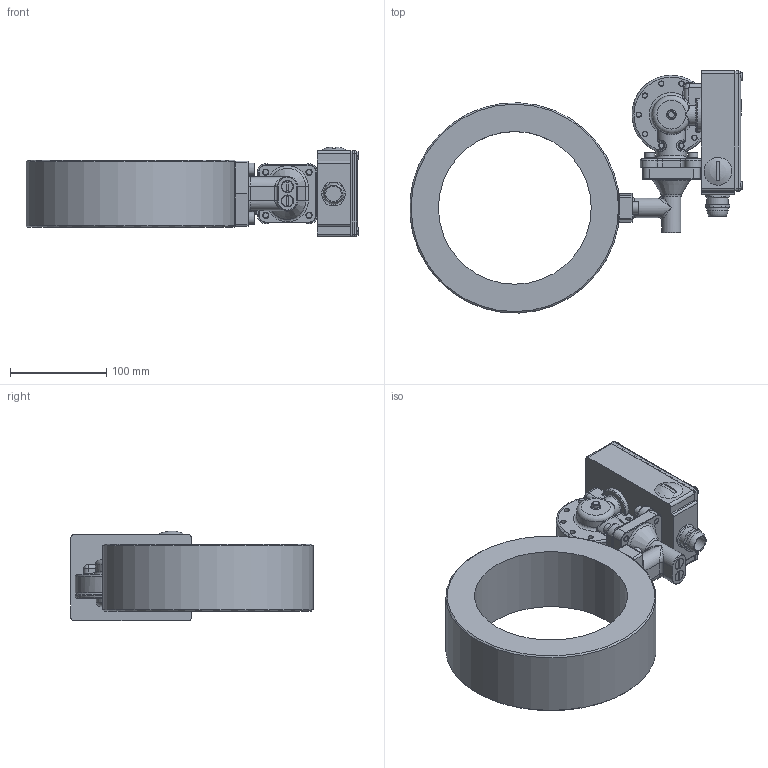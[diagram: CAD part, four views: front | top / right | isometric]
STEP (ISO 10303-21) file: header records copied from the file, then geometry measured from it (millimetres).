
FILE_DESCRIPTION(/* description */ ('Alibre Inc.'),/* implementation_level */ '2;1');
FILE_NAME(/* name */ 'export0',/* time_stamp */ '2012-10-15T13:33:35+02:00',/* author */ (''),/* organization */ (''),/* preprocessor_version */ 'ST-DEVELOPER v14',/* originating_system */ 'Alibre',/* authorisation */ '');
FILE_SCHEMA (('CONFIG_CONTROL_DESIGN'));
Length unit declared in the file: centimetre
Products named in the file (13): ID_1; ID_2; ID_3; ID_4; ID_5; ID_6; ID_7; ID_8; ID_9
Bounding box: 345.6 x 251.95 x 93.66 mm (x, y, z)
Volume: 1635723.3 mm3; surface area: 288783.7 mm2
Topology: 29 solids, 29 shells, 1094 faces, 2576 edges, 1623 vertices
Faces by surface type: plane 540, cylinder 251, bspline 168, torus 65, cone 65, sphere 5
Full cylindrical faces by diameter (mm): 5 x23, 5.5 x18, 6 x12, 6.038 x2, 6.5 x4, 7.5 x1, 8 x18, 8.3 x9, 8.5 x2, 8.7 x2, 9.6 x4, 10 x4, 11.75 x2, 11.85 x1, 12 x2, 13 x2, 14 x2, 16 x1, 17.966 x1, 22 x2, 22.5 x4, 31 x1, 32 x1, 47 x1, 56 x2, 159 x1
Entity records: 34385 total; most frequent: CARTESIAN_POINT 14011, ORIENTED_EDGE 3922, DIRECTION 3181, EDGE_CURVE 1961, VERTEX_POINT 1309, AXIS2_PLACEMENT_3D 1303, EDGE_LOOP 1144, FACE_BOUND 1144
